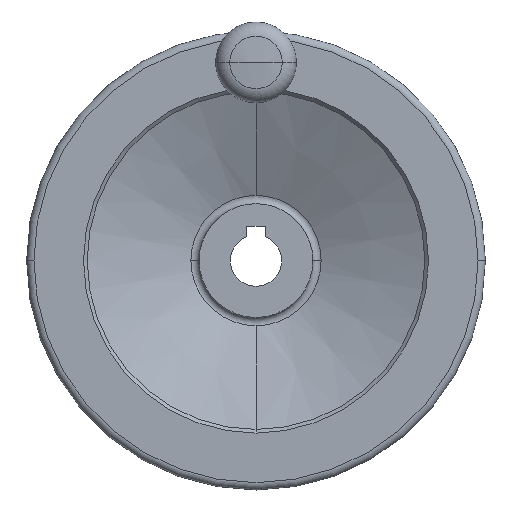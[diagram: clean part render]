
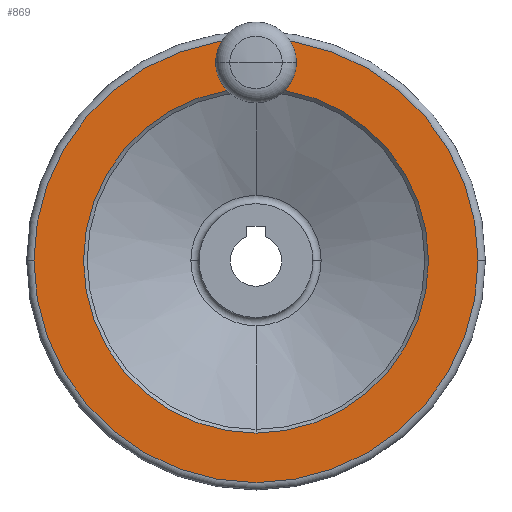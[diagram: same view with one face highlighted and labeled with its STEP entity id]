
A CAD part, left-side view. The second image highlights one B-rep face of the part: STEP entity #869.
In plain terms, the highlighted planar face has unit normal (-1, 0, 0).
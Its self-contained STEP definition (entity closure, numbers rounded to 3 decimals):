
#3 = DIRECTION ( 'NONE',  ( -1., 0., 0. ) ) ;
#43 = FACE_OUTER_BOUND ( 'NONE', #1963, .T. ) ;
#76 = AXIS2_PLACEMENT_3D ( 'NONE', #1445, #577, #588 ) ;
#275 = EDGE_LOOP ( 'NONE', ( #1904, #846 ) ) ;
#285 = VERTEX_POINT ( 'NONE', #2037 ) ;
#328 = CIRCLE ( 'NONE', #361, 60.5 ) ;
#361 = AXIS2_PLACEMENT_3D ( 'NONE', #1384, #1555, #400 ) ;
#400 = DIRECTION ( 'NONE',  ( 0., -1., 0. ) ) ;
#440 = CIRCLE ( 'NONE', #684, 60.5 ) ;
#484 = DIRECTION ( 'NONE',  ( 0., -1., 0. ) ) ;
#503 = EDGE_CURVE ( 'NONE', #1578, #1566, #1835, .T. ) ;
#511 = DIRECTION ( 'NONE',  ( 0., -1., 0. ) ) ;
#534 = CARTESIAN_POINT ( 'NONE',  ( -85., 32., 5.5 ) ) ;
#552 = EDGE_CURVE ( 'NONE', #1566, #1578, #2086, .T. ) ;
#577 = DIRECTION ( 'NONE',  ( 1., 0., 0. ) ) ;
#585 = PLANE ( 'NONE',  #1626 ) ;
#588 = DIRECTION ( 'NONE',  ( 0., -1., 0. ) ) ;
#656 = EDGE_LOOP ( 'NONE', ( #1796, #2159 ) ) ;
#665 = VERTEX_POINT ( 'NONE', #1813 ) ;
#684 = AXIS2_PLACEMENT_3D ( 'NONE', #1340, #3, #511 ) ;
#828 = DIRECTION ( 'NONE',  ( 1., 0., 0. ) ) ;
#839 = EDGE_CURVE ( 'NONE', #665, #285, #328, .T. ) ;
#846 = ORIENTED_EDGE ( 'NONE', *, *, #1192, .F. ) ;
#869 = ADVANCED_FACE ( 'NONE', ( #875, #1766, #43 ), #585, .T. ) ;
#875 = FACE_BOUND ( 'NONE', #275, .T. ) ;
#1026 = VERTEX_POINT ( 'NONE', #1975 ) ;
#1033 = AXIS2_PLACEMENT_3D ( 'NONE', #2187, #828, #484 ) ;
#1171 = DIRECTION ( 'NONE',  ( -1., 0., 0. ) ) ;
#1192 = EDGE_CURVE ( 'NONE', #1026, #2096, #1527, .T. ) ;
#1208 = DIRECTION ( 'NONE',  ( -1., 0., 0. ) ) ;
#1213 = CIRCLE ( 'NONE', #1496, 47. ) ;
#1224 = DIRECTION ( 'NONE',  ( -1., 0., 0. ) ) ;
#1292 = ORIENTED_EDGE ( 'NONE', *, *, #839, .T. ) ;
#1340 = CARTESIAN_POINT ( 'NONE',  ( -85., 32., 5.5 ) ) ;
#1356 = DIRECTION ( 'NONE',  ( 0., -1., 0. ) ) ;
#1366 = ORIENTED_EDGE ( 'NONE', *, *, #1690, .T. ) ;
#1384 = CARTESIAN_POINT ( 'NONE',  ( -85., 32., 5.5 ) ) ;
#1445 = CARTESIAN_POINT ( 'NONE',  ( -85., 32., 59.5 ) ) ;
#1474 = CARTESIAN_POINT ( 'NONE',  ( -85., 36., 59.5 ) ) ;
#1496 = AXIS2_PLACEMENT_3D ( 'NONE', #1895, #1208, #1907 ) ;
#1527 = CIRCLE ( 'NONE', #1596, 47. ) ;
#1546 = CARTESIAN_POINT ( 'NONE',  ( -85., 32., -41.5 ) ) ;
#1555 = DIRECTION ( 'NONE',  ( -1., 0., 0. ) ) ;
#1566 = VERTEX_POINT ( 'NONE', #1474 ) ;
#1578 = VERTEX_POINT ( 'NONE', #2126 ) ;
#1596 = AXIS2_PLACEMENT_3D ( 'NONE', #534, #1171, #1356 ) ;
#1626 = AXIS2_PLACEMENT_3D ( 'NONE', #1546, #1224, #1905 ) ;
#1690 = EDGE_CURVE ( 'NONE', #285, #665, #440, .T. ) ;
#1694 = CARTESIAN_POINT ( 'NONE',  ( -85., 32., -41.5 ) ) ;
#1766 = FACE_BOUND ( 'NONE', #656, .T. ) ;
#1796 = ORIENTED_EDGE ( 'NONE', *, *, #503, .T. ) ;
#1813 = CARTESIAN_POINT ( 'NONE',  ( -85., 92.5, 5.5 ) ) ;
#1835 = CIRCLE ( 'NONE', #76, 4. ) ;
#1895 = CARTESIAN_POINT ( 'NONE',  ( -85., 32., 5.5 ) ) ;
#1904 = ORIENTED_EDGE ( 'NONE', *, *, #2182, .F. ) ;
#1905 = DIRECTION ( 'NONE',  ( 0., 0., 1. ) ) ;
#1907 = DIRECTION ( 'NONE',  ( 0., -1., 0. ) ) ;
#1963 = EDGE_LOOP ( 'NONE', ( #1366, #1292 ) ) ;
#1975 = CARTESIAN_POINT ( 'NONE',  ( -85., 32., 52.5 ) ) ;
#2037 = CARTESIAN_POINT ( 'NONE',  ( -85., -28.5, 5.5 ) ) ;
#2086 = CIRCLE ( 'NONE', #1033, 4. ) ;
#2096 = VERTEX_POINT ( 'NONE', #1694 ) ;
#2126 = CARTESIAN_POINT ( 'NONE',  ( -85., 28., 59.5 ) ) ;
#2159 = ORIENTED_EDGE ( 'NONE', *, *, #552, .T. ) ;
#2182 = EDGE_CURVE ( 'NONE', #2096, #1026, #1213, .T. ) ;
#2187 = CARTESIAN_POINT ( 'NONE',  ( -85., 32., 59.5 ) ) ;
